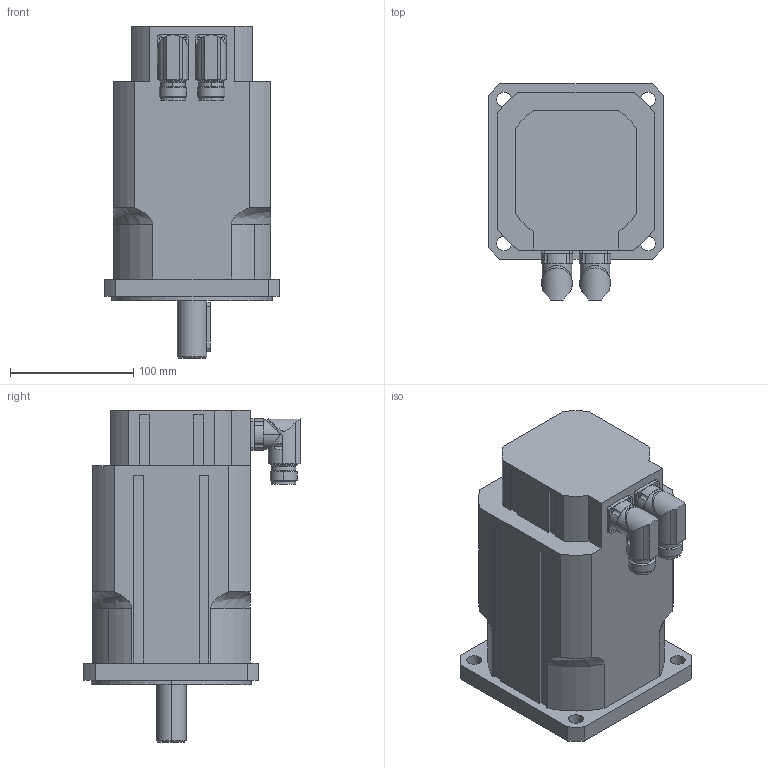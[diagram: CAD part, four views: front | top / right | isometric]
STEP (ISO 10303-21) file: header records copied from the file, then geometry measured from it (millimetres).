
FILE_DESCRIPTION(('STEP AP203'),'2;1');
FILE_NAME('MT5-1050.stp','2006-08-28T20:15:33',(''),(''),'2005.2.102','THINKDESIGN','');
FILE_SCHEMA(('CONFIG_CONTROL_DESIGN'));
Length unit declared in the file: millimetre
Bounding box: 142 x 175.5 x 269 mm (x, y, z)
Volume: 3284266 mm3; surface area: 170884.6 mm2
Topology: 3 solids, 3 shells, 257 faces, 681 edges, 439 vertices
Faces by surface type: cylinder 108, plane 107, bspline 42
Entity records: 9366 total; most frequent: CARTESIAN_POINT 2935, ORIENTED_EDGE 1358, DIRECTION 1309, EDGE_CURVE 679, AXIS2_PLACEMENT_3D 483, VERTEX_POINT 439, VECTOR 343, LINE 343
